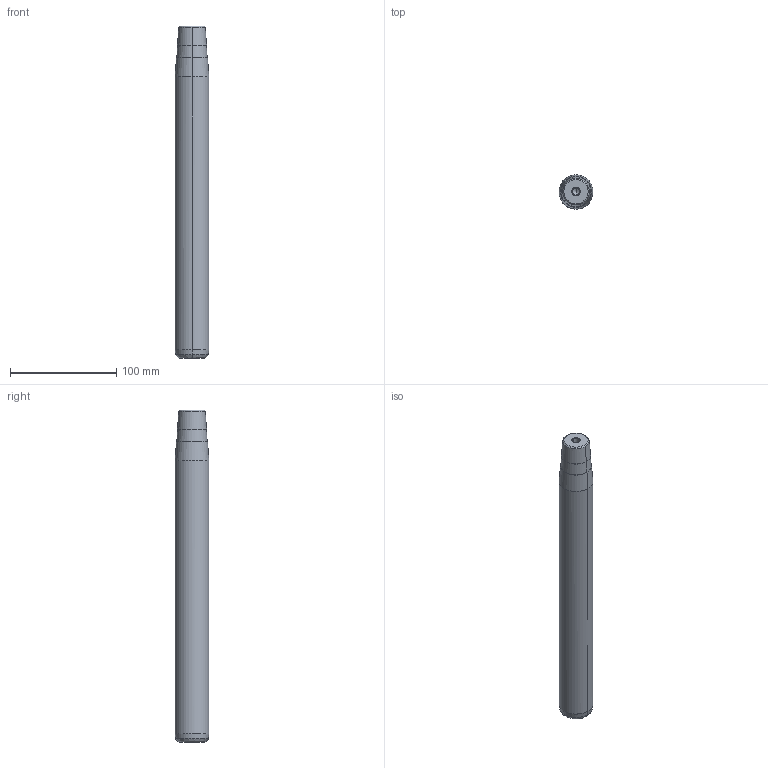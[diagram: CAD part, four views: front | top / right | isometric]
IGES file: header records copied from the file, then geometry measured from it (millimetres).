
Start section: START RECORD GO HERE.
Global section: file name: 722-32x280x313.igs; native system: DASSAULT SYSTEMES CATIA V5 R20 - www.3ds.com; preprocessor: CATIA Version 5 Release 20 ; author: Utente; organization: NB04-ASUS; date: 20210108.170732; units: millimetre
Bounding box: 32 x 32 x 313 mm (x, y, z)
Surface area: 33040.9 mm2 (no closed solid volume)
Topology: 0 solids, 0 shells, 32 faces, 192 edges, 188 vertices
Faces by surface type: revolution 30, plane 2
